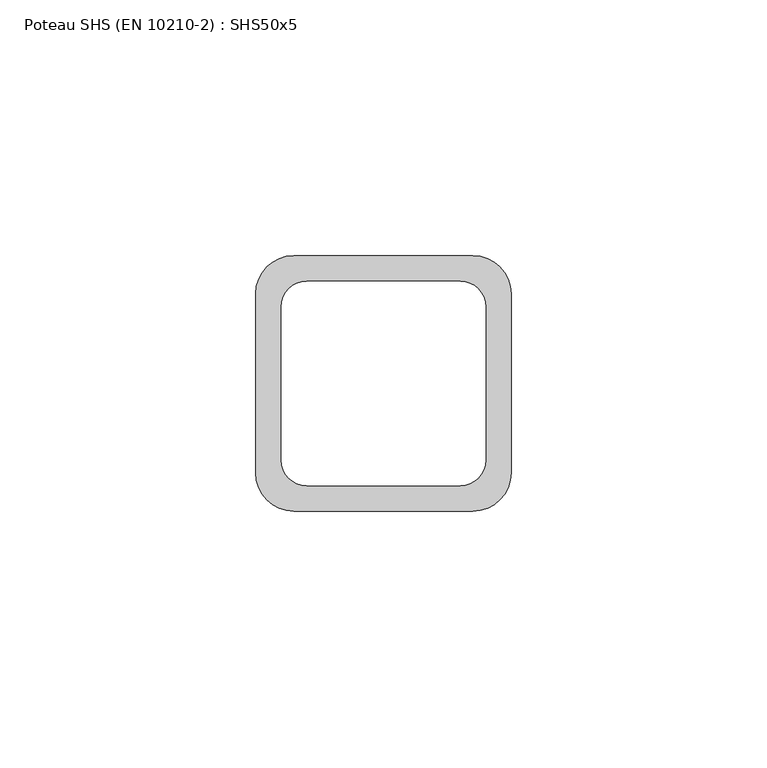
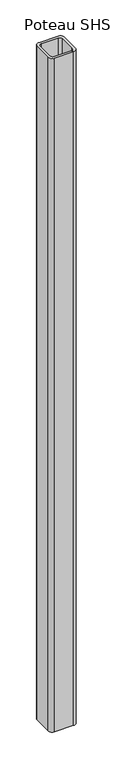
"""IFC4 building model written with IfcOpenShell, lengths in millimetres: column geometry, Poteau SHS (EN 10210-2) : SHS50x5."""

from ifc_helpers import new_model, si_unit, point, frame, frame_2d, origin, place, context, project, spatial, polyline, circle_curve, trimmed, segment, composite_curve, outline, extrude, source, transform, mapped, element, save


def poteau_shs_en_10210_2_shs50x5_0b2d64e4(model_context):
    return source(origin(), model_context, "Body", "SweptSolid", [
        extrude(outline(composite_curve([segment(trimmed(circle_curve(frame_2d((17.5, 17.5)), 7.5), [point((17.5, 25.0))], [point((25.0, 17.5))], False, "CARTESIAN"), True, "CONTINUOUS"), segment(polyline([(25.0, 17.5), (25.0, -17.5)]), True, "CONTINUOUS"), segment(trimmed(circle_curve(frame_2d((17.5, -17.5)), 7.5), [point((25.0, -17.5))], [point((17.5, -25.0))], False, "CARTESIAN"), True, "CONTINUOUS"), segment(polyline([(17.5, -25.0), (-17.5, -25.0)]), True, "CONTINUOUS"), segment(trimmed(circle_curve(frame_2d((-17.5, -17.5)), 7.5), [point((-17.5, -25.0))], [point((-25.0, -17.5))], False, "CARTESIAN"), True, "CONTINUOUS"), segment(polyline([(-25.0, -17.5), (-25.0, 17.5)]), True, "CONTINUOUS"), segment(trimmed(circle_curve(frame_2d((-17.5, 17.5)), 7.5), [point((-25.0, 17.5))], [point((-17.5, 25.0))], False, "CARTESIAN"), True, "CONTINUOUS"), segment(polyline([(-17.5, 25.0), (17.5, 25.0)]), True, "CONTINUOUS")], self_intersect=False), holes=[composite_curve([segment(polyline([(15.0, 20.0), (-15.0, 20.0)]), True, "CONTINUOUS"), segment(trimmed(circle_curve(frame_2d((-15.0, 15.0)), 5.0), [point((-15.0, 20.0))], [point((-20.0, 15.0))], True, "CARTESIAN"), True, "CONTINUOUS"), segment(polyline([(-20.0, 15.0), (-20.0, -15.0)]), True, "CONTINUOUS"), segment(trimmed(circle_curve(frame_2d((-15.0, -15.0)), 5.0), [point((-20.0, -15.0))], [point((-15.0, -20.0))], True, "CARTESIAN"), True, "CONTINUOUS"), segment(polyline([(-15.0, -20.0), (15.0, -20.0)]), True, "CONTINUOUS"), segment(trimmed(circle_curve(frame_2d((15.0, -15.0)), 5.0), [point((15.0, -20.0))], [point((20.0, -15.0))], True, "CARTESIAN"), True, "CONTINUOUS"), segment(polyline([(20.0, -15.0), (20.0, 15.0)]), True, "CONTINUOUS"), segment(trimmed(circle_curve(frame_2d((15.0, 15.0)), 5.0), [point((20.0, 15.0))], [point((15.0, 20.0))], True, "CARTESIAN"), True, "CONTINUOUS")], self_intersect=False)]), frame((0.0, 0.0, 3000.0), z_axis=(0.0, 0.0, 1.0), x_axis=(1.0, 0.0, 0.0)), (0.0, 0.0, 1.0), 1300.0),
    ])


if __name__ == "__main__":
    model = new_model("IFC4")
    model_context = context("Model", 3, world=origin())
    ifc_project = project(units=[si_unit("LENGTHUNIT", "METRE", prefix="MILLI")], contexts=[model_context])
    site = spatial("IfcSite", under=ifc_project)
    building = spatial("IfcBuilding", under=site)
    placement = place(None, origin())
    poteau_shs_en_10210_2_shs50x5_shape = poteau_shs_en_10210_2_shs50x5_0b2d64e4(model_context)
    element("IfcColumn", 1, ObjectType="Poteau SHS (EN 10210-2) : SHS50x5", at=placement, inside=building, context=model_context, shape_type="MappedRepresentation", body=[
        mapped(poteau_shs_en_10210_2_shs50x5_shape, transform((0.0, 0.0, 0.0), x_axis=(1.0, 0.0, 0.0), y_axis=(0.0, 1.0, 0.0), z_axis=(0.0, 0.0, 1.0))),
    ])
    save(model, "model.ifc")
